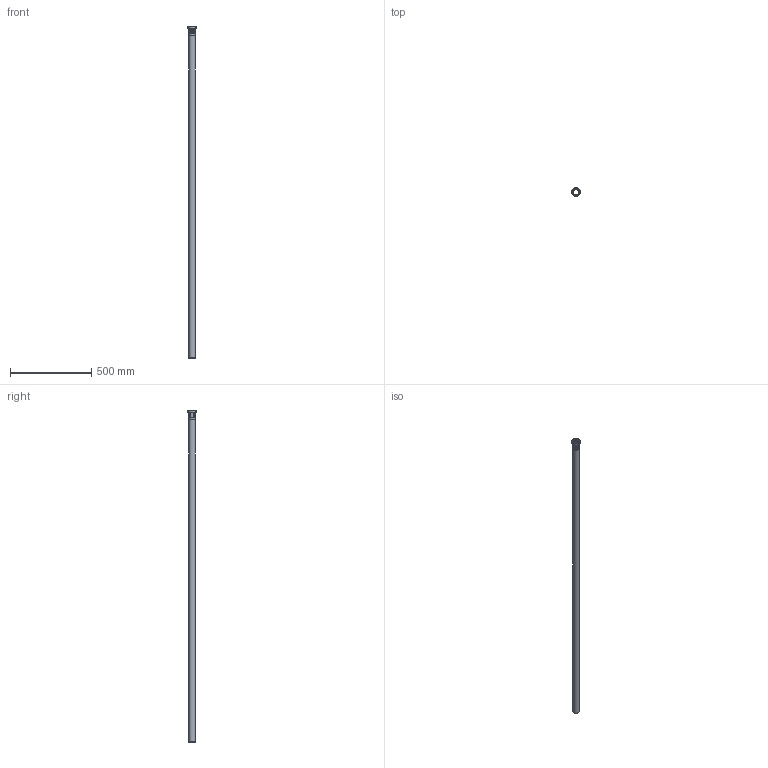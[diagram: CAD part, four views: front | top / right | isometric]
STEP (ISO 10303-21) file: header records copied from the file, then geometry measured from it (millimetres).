
FILE_DESCRIPTION(/* description */ (''),/* implementation_level */ '2;1');
FILE_NAME(/* name */ 'Z:\Geberit\Export\NewStep\390106.stp',/* time_stamp */ '2014-04-02T08:08:43+02:00',/* author */ ('ML'),/* organization */ (''),/* preprocessor_version */ 'ST-DEVELOPER v15.2',/* originating_system */ 'Autodesk Inventor 2014',/* authorisation */ '');
FILE_SCHEMA (('AUTOMOTIVE_DESIGN { 1 0 10303 214 3 1 1 }'));
Length unit declared in the file: millimetre
Products named in the file (3): 861415; 861581ohne; 390106
Bounding box: 53.5 x 53.5 x 2047.3 mm (x, y, z)
Volume: 498000.6 mm3; surface area: 499272.7 mm2
Topology: 2 solids, 2 shells, 47 faces, 104 edges, 71 vertices
Faces by surface type: torus 24, cylinder 11, plane 10, cone 2
Full cylindrical faces by diameter (mm): 36.15 x2, 40.15 x2, 40.8 x2, 42.8 x1, 44.8 x2, 49.5 x1, 53.5 x1
Entity records: 2003 total; most frequent: CARTESIAN_POINT 962, DIRECTION 182, ORIENTED_EDGE 174, AXIS2_PLACEMENT_3D 91, EDGE_CURVE 87, EDGE_LOOP 78, VERTEX_POINT 71, STYLED_ITEM 49
